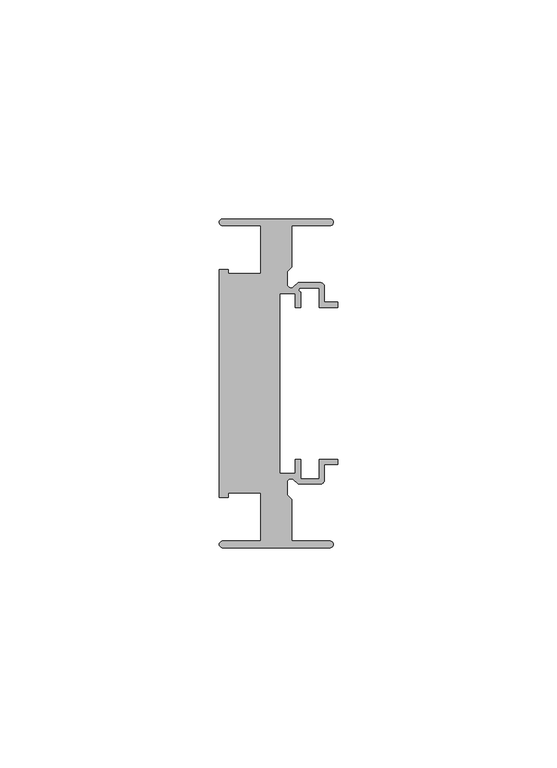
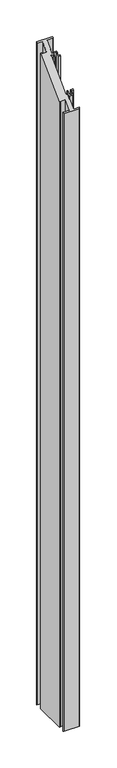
"""IFC4 building model written with IfcOpenShell, lengths in millimetres: member geometry, Прямоугольный импост : 7-AMG-2-Профиль 26Х75 Низ Л."""

from ifc_helpers import new_model, si_unit, frame, origin, place, context, project, spatial, polyline, circle_curve, ellipse_curve, source, transform, mapped, element, save
from ifc_brep_helpers import plane_surface, cylinder_surface, revolved_surface, advanced_brep


def member_af907c4f(model_context):
    return source(origin(), model_context, "Body", "AdvancedBrep", [
        advanced_brep(
        [(-1.7, -37.5, -1073.0), (-26.25, -37.5, -1073.0), (-26.25, -36.0, -1073.0), (-17.5, -36.0, -1073.0), (-17.5, -25.0, -1073.0), (-24.9359877, -25.0, -1073.0), (-24.9359877, -26.0, -1073.0), (-27.0, -26.0, -1073.0), (-27.0, 26.0, -1073.0), (-24.9359877, 26.0, -1073.0), (-24.9359877, 25.0, -1073.0), (-17.5, 25.0, -1073.0), (-17.5, 36.0, -1073.0), (-26.25, 36.0, -1073.0), (-26.25, 37.5, -1073.0), (-1.7, 37.5, -1073.0), (-1.7, 36.0, -1073.0), (-10.5, 36.0, -1073.0), (-10.5, 26.5029437, -1073.0), (-11.5, 25.5029437, -1073.0), (-11.5, 22.6727922, -1073.0), (-9.9636039, 22.0363961, -1073.0), (-9.0, 23.0, -1073.0), (-4.0, 23.0, -1073.0), (-3.0, 22.0, -1073.0), (-3.0, 18.55, -1073.0), (0.0, 18.55, -1073.0), (0.0, 17.35, -1073.0), (-4.2, 17.35, -1073.0), (-4.2, 21.8, -1073.0), (-8.5029437, 21.8, -1073.0), (-8.45, 20.8470563, -1073.0), (-8.45, 17.35, -1073.0), (-9.65, 17.35, -1073.0), (-9.65, 20.55, -1073.0), (-13.15, 20.55, -1073.0), (-13.15, -20.55, -1073.0), (-9.65, -20.55, -1073.0), (-9.65, -17.35, -1073.0), (-8.45, -17.35, -1073.0), (-8.45, -21.8, -1073.0), (-4.2, -21.8, -1073.0), (-4.2, -17.35, -1073.0), (0.0, -17.35, -1073.0), (0.0, -18.55, -1073.0), (-3.0, -18.55, -1073.0), (-3.0, -22.0, -1073.0), (-4.0, -23.0, -1073.0), (-9.0, -23.0, -1073.0), (-9.9636039, -22.0363961, -1073.0), (-11.5, -22.6727922, -1073.0), (-11.5, -25.5029437, -1073.0), (-10.5, -26.5029437, -1073.0), (-10.5, -36.0, -1073.0), (-1.7, -36.0, -1073.0), (-1.7, -36.0, -36.0), (-1.7, -37.5, -37.5), (-10.5, -36.0, -36.0), (-10.5, -26.5029437, -26.5029437), (-11.5, -25.5029437, -25.5029437), (-11.5, -22.6727922, -22.6727922), (-9.9636039, -22.0363961, -22.0363961), (-9.0, -23.0, -23.0), (-4.0, -23.0, -23.0), (-3.0, -22.0, -22.0), (-3.0, -18.55, -18.55), (0.0, -18.55, -18.55), (0.0, -17.35, -17.35), (-4.2, -17.35, -17.35), (-4.2, -21.8, -21.8), (-8.45, -21.8, -21.8), (-8.45, -17.35, -17.35), (-9.65, -17.35, -17.35), (-9.65, -20.55, -20.55), (-13.15, -20.55, -20.55), (-13.15, 20.55, 20.55), (-9.65, 20.55, 20.55), (-9.65, 17.35, 17.35), (-8.45, 17.35, 17.35), (-8.45, 20.8470563, 20.8470563), (-8.5029437, 21.8, 21.8), (-4.2, 21.8, 21.8), (-4.2, 17.35, 17.35), (0.0, 17.35, 17.35), (0.0, 18.55, 18.55), (-3.0, 18.55, 18.55), (-3.0, 22.0, 22.0), (-4.0, 23.0, 23.0), (-9.0, 23.0, 23.0), (-9.9636039, 22.0363961, 22.0363961), (-11.5, 22.6727922, 22.6727922), (-11.5, 25.5029437, 25.5029437), (-10.5, 26.5029437, 26.5029437), (-10.5, 36.0, 36.0), (-1.7, 36.0, 36.0), (-1.7, 37.5, 37.5), (-26.25, 37.5, 37.5), (-26.25, 36.0, 36.0), (-17.5, 36.0, 36.0), (-17.5, 25.0, 25.0), (-24.9359877, 25.0, 25.0), (-24.9359877, 26.0, 26.0), (-27.0, 26.0, 26.0), (-27.0, -26.0, -26.0), (-24.9359877, -26.0, -26.0), (-24.9359877, -25.0, -25.0), (-17.5, -25.0, -25.0), (-17.5, -36.0, -36.0), (-26.25, -36.0, -36.0), (-26.25, -37.5, -37.5)],
        [
            (0, 1),
            (1, 2, circle_curve(frame((-26.25, -36.75, -1073.0), z_axis=(0.0, 0.0, -1.0), x_axis=(-1.0, 0.0, 0.0)), 0.75)),
            (2, 3),
            (3, 4),
            (4, 5),
            (5, 6),
            (6, 7),
            (7, 8),
            (8, 9),
            (9, 10),
            (10, 11),
            (11, 12),
            (12, 13),
            (13, 14, circle_curve(frame((-26.25, 36.75, -1073.0), z_axis=(0.0, 0.0, -1.0), x_axis=(-1.0, 0.0, 0.0)), 0.75)),
            (14, 15),
            (15, 16, circle_curve(frame((-1.7, 36.75, -1073.0), z_axis=(0.0, 0.0, -1.0), x_axis=(-1.0, 0.0, 0.0)), 0.75)),
            (16, 17),
            (17, 18),
            (18, 19),
            (19, 20),
            (20, 21, circle_curve(frame((-10.6, 22.6727922, -1073.0), z_axis=(0.0, 0.0, 1.0), x_axis=(1.0, 0.0, 0.0)), 0.9)),
            (21, 22),
            (22, 23),
            (23, 24, circle_curve(frame((-4.0, 22.0, -1073.0), z_axis=(0.0, 0.0, -1.0), x_axis=(1.0, 0.0, 0.0)), 1.0)),
            (24, 25),
            (25, 26),
            (26, 27),
            (27, 28),
            (28, 29),
            (29, 30),
            (30, 31, circle_curve(frame((-8.3343131, 21.3314262, -1073.0), z_axis=(0.0, 0.0, 1.0), x_axis=(1.0, 0.0, 0.0)), 0.4979937)),
            (31, 32),
            (32, 33),
            (33, 34),
            (34, 35),
            (35, 36),
            (36, 37),
            (37, 38),
            (38, 39),
            (39, 40),
            (40, 41),
            (41, 42),
            (42, 43),
            (43, 44),
            (44, 45),
            (45, 46),
            (46, 47, circle_curve(frame((-4.0, -22.0, -1073.0), z_axis=(0.0, 0.0, -1.0), x_axis=(1.0, 0.0, 0.0)), 1.0)),
            (47, 48),
            (48, 49),
            (49, 50, circle_curve(frame((-10.6, -22.6727922, -1073.0), z_axis=(0.0, 0.0, 1.0), x_axis=(1.0, 0.0, 0.0)), 0.9)),
            (50, 51),
            (51, 52),
            (52, 53),
            (53, 54),
            (54, 0, circle_curve(frame((-1.7, -36.75, -1073.0), z_axis=(0.0, 0.0, -1.0), x_axis=(-1.0, 0.0, 0.0)), 0.75)),
            (55, 56, ellipse_curve(frame((-1.7, -36.75, -36.75), z_axis=(0.0, 0.7071067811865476, -0.7071067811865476), x_axis=(0.0, 0.7071067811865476, 0.7071067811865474)), 1.0606602, 0.75)),
            (56, 0),
            (54, 55),
            (57, 55),
            (53, 57),
            (58, 57),
            (52, 58),
            (59, 58),
            (51, 59),
            (60, 59),
            (50, 60),
            (61, 60, ellipse_curve(frame((-10.6, -22.6727922, -22.6727922), z_axis=(0.0, -0.7071067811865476, 0.7071067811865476), x_axis=(0.0, -0.7071067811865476, -0.7071067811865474)), 1.2727922, 0.9)),
            (49, 61),
            (62, 61),
            (48, 62),
            (63, 62),
            (47, 63),
            (64, 63, ellipse_curve(frame((-4.0, -22.0, -22.0), z_axis=(0.0, 0.7071067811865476, -0.7071067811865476), x_axis=(0.0, 0.7071067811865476, 0.7071067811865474)), 1.4142136, 1.0)),
            (46, 64),
            (65, 64),
            (45, 65),
            (66, 65),
            (44, 66),
            (67, 66),
            (43, 67),
            (68, 67),
            (42, 68),
            (69, 68),
            (41, 69),
            (70, 69),
            (40, 70),
            (71, 70),
            (39, 71),
            (72, 71),
            (38, 72),
            (73, 72),
            (37, 73),
            (74, 73),
            (36, 74),
            (75, 74),
            (35, 75),
            (76, 75),
            (34, 76),
            (77, 76),
            (33, 77),
            (78, 77),
            (32, 78),
            (79, 78),
            (31, 79),
            (80, 79, ellipse_curve(frame((-8.3343131, 21.3314262, 21.3314262), z_axis=(0.0, -0.7071067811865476, 0.7071067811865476), x_axis=(0.0, -0.7071067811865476, -0.7071067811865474)), 0.7042694, 0.4979937)),
            (30, 80),
            (81, 80),
            (29, 81),
            (82, 81),
            (28, 82),
            (83, 82),
            (27, 83),
            (84, 83),
            (26, 84),
            (85, 84),
            (25, 85),
            (86, 85),
            (24, 86),
            (87, 86, ellipse_curve(frame((-4.0, 22.0, 22.0), z_axis=(0.0, 0.7071067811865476, -0.7071067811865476), x_axis=(0.0, 0.7071067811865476, 0.7071067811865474)), 1.4142136, 1.0)),
            (23, 87),
            (88, 87),
            (22, 88),
            (89, 88),
            (21, 89),
            (90, 89, ellipse_curve(frame((-10.6, 22.6727922, 22.6727922), z_axis=(0.0, -0.7071067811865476, 0.7071067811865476), x_axis=(0.0, -0.7071067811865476, -0.7071067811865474)), 1.2727922, 0.9)),
            (20, 90),
            (91, 90),
            (19, 91),
            (92, 91),
            (18, 92),
            (93, 92),
            (17, 93),
            (94, 93),
            (16, 94),
            (95, 94, ellipse_curve(frame((-1.7, 36.75, 36.75), z_axis=(0.0, 0.7071067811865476, -0.7071067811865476), x_axis=(0.0, 0.7071067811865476, 0.7071067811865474)), 1.0606602, 0.75)),
            (15, 95),
            (96, 95),
            (14, 96),
            (97, 96, ellipse_curve(frame((-26.25, 36.75, 36.75), z_axis=(0.0, 0.7071067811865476, -0.7071067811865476), x_axis=(0.0, 0.7071067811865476, 0.7071067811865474)), 1.0606602, 0.75)),
            (13, 97),
            (98, 97),
            (12, 98),
            (99, 98),
            (11, 99),
            (100, 99),
            (10, 100),
            (101, 100),
            (9, 101),
            (102, 101),
            (8, 102),
            (103, 102),
            (7, 103),
            (104, 103),
            (6, 104),
            (105, 104),
            (5, 105),
            (106, 105),
            (4, 106),
            (107, 106),
            (3, 107),
            (108, 107),
            (2, 108),
            (109, 108, ellipse_curve(frame((-26.25, -36.75, -36.75), z_axis=(0.0, 0.7071067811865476, -0.7071067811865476), x_axis=(0.0, 0.7071067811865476, 0.7071067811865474)), 1.0606602, 0.75)),
            (1, 109),
            (56, 109),
        ],
        [
            plane_surface(frame((0.0, -45.7745836, -1073.0), z_axis=(0.0, 0.0, -1.0), x_axis=(-1.0, 0.0, 0.0))),
            cylinder_surface(frame((-1.7, -36.75, 0.0), z_axis=(0.0, 0.0, 1.0), x_axis=(-1.0, 0.0, 0.0)), 0.75),
            plane_surface(frame((-1.7, -36.0, 0.0), z_axis=(0.0, 1.0, 0.0), x_axis=(0.0, 0.0, -1.0))),
            plane_surface(frame((-10.5, -36.0, 0.0), z_axis=(1.0, 0.0, 0.0), x_axis=(0.0, 0.0, -1.0))),
            plane_surface(frame((-10.5, -26.5029437, 0.0), z_axis=(0.7071067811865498, 0.7071067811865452, 0.0), x_axis=(0.0, 0.0, -1.0))),
            plane_surface(frame((-11.5, -25.5029437, 0.0), z_axis=(1.0, 0.0, 0.0), x_axis=(0.0, 0.0, -1.0))),
            revolved_surface(polyline([(-9.7, -22.6727922, -1073.0), (-9.7, -22.6727922, -21.772792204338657)]), (-10.6, -22.6727922, 0.0), (0.0, 0.0, -1.0)),
            plane_surface(frame((-9.9636039, -22.0363961, 0.0), z_axis=(-0.7071067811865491, -0.707106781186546, 0.0), x_axis=(0.0, 0.0, -1.0))),
            plane_surface(frame((-9.0, -23.0, 0.0), z_axis=(0.0, -1.0, 0.0), x_axis=(0.0, 0.0, -1.0))),
            cylinder_surface(frame((-4.0, -22.0, 0.0), z_axis=(0.0, 0.0, 1.0), x_axis=(1.0, 0.0, 0.0)), 1.0),
            plane_surface(frame((-3.0, -22.0, 0.0), z_axis=(1.0, 0.0, 0.0), x_axis=(0.0, 0.0, -1.0))),
            plane_surface(frame((-3.0, -18.55, 0.0), z_axis=(0.0, -1.0, 0.0), x_axis=(0.0, 0.0, -1.0))),
            plane_surface(frame((0.0, -18.55, 0.0), z_axis=(1.0, 0.0, 0.0), x_axis=(0.0, 0.0, -1.0))),
            plane_surface(frame((0.0, -17.35, 0.0), z_axis=(0.0, 1.0, 0.0), x_axis=(0.0, 0.0, -1.0))),
            plane_surface(frame((-4.2, -17.35, 0.0), z_axis=(-1.0, 0.0, 0.0), x_axis=(0.0, 0.0, -1.0))),
            plane_surface(frame((-4.2, -21.8, 0.0), z_axis=(0.0, 1.0, 0.0), x_axis=(0.0, 0.0, -1.0))),
            plane_surface(frame((-8.45, -21.8, 0.0), z_axis=(1.0, 0.0, 0.0), x_axis=(0.0, 0.0, -1.0))),
            plane_surface(frame((-8.45, -17.35, 0.0), z_axis=(0.0, 1.0, 0.0), x_axis=(0.0, 0.0, -1.0))),
            plane_surface(frame((-9.65, -17.35, 0.0), z_axis=(-1.0, 0.0, 0.0), x_axis=(0.0, 0.0, -1.0))),
            plane_surface(frame((-9.65, -20.55, 0.0), z_axis=(0.0, 1.0, 0.0), x_axis=(0.0, 0.0, -1.0))),
            plane_surface(frame((-13.15, -20.55, 0.0), z_axis=(1.0, 0.0, 0.0), x_axis=(0.0, 0.0, -1.0))),
            plane_surface(frame((-13.15, 20.55, 0.0), z_axis=(0.0, -1.0, 0.0), x_axis=(0.0, 0.0, -1.0))),
            plane_surface(frame((-9.65, 20.55, 0.0), z_axis=(-1.0, 0.0, 0.0), x_axis=(0.0, 0.0, -1.0))),
            plane_surface(frame((-9.65, 17.35, 0.0), z_axis=(0.0, -1.0, 0.0), x_axis=(0.0, 0.0, -1.0))),
            plane_surface(frame((-8.45, 17.35, 0.0), z_axis=(1.0, 0.0, 0.0), x_axis=(0.0, 0.0, -1.0))),
            revolved_surface(polyline([(-7.836319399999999, 21.3314262, -1073.0), (-7.836319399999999, 21.3314262, 21.82941986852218)]), (-8.3343131, 21.3314262, 0.0), (0.0, 0.0, -1.0)),
            plane_surface(frame((-8.5029437, 21.8, 0.0), z_axis=(0.0, -1.0, 0.0), x_axis=(0.0, 0.0, -1.0))),
            plane_surface(frame((-4.2, 21.8, 0.0), z_axis=(-1.0, 0.0, 0.0), x_axis=(0.0, 0.0, -1.0))),
            plane_surface(frame((-4.2, 17.35, 0.0), z_axis=(0.0, -1.0, 0.0), x_axis=(0.0, 0.0, -1.0))),
            plane_surface(frame((0.0, 17.35, 0.0), z_axis=(1.0, 0.0, 0.0), x_axis=(0.0, 0.0, -1.0))),
            plane_surface(frame((0.0, 18.55, 0.0), z_axis=(0.0, 1.0, 0.0), x_axis=(0.0, 0.0, -1.0))),
            plane_surface(frame((-3.0, 18.55, 0.0), z_axis=(1.0, 0.0, 0.0), x_axis=(0.0, 0.0, -1.0))),
            cylinder_surface(frame((-4.0, 22.0, 0.0), z_axis=(0.0, 0.0, 1.0), x_axis=(1.0, 0.0, 0.0)), 1.0),
            plane_surface(frame((-4.0, 23.0, 0.0), z_axis=(0.0, 1.0, 0.0), x_axis=(0.0, 0.0, -1.0))),
            plane_surface(frame((-9.0, 23.0, 0.0), z_axis=(-0.7071067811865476, 0.7071067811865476, 0.0), x_axis=(0.0, 0.0, -1.0))),
            revolved_surface(polyline([(-9.7, 22.6727922, -1073.0), (-9.7, 22.6727922, 23.572792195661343)]), (-10.6, 22.6727922, 0.0), (0.0, 0.0, -1.0)),
            plane_surface(frame((-11.5, 22.6727922, 0.0), z_axis=(1.0, 0.0, 0.0), x_axis=(0.0, 0.0, -1.0))),
            plane_surface(frame((-11.5, 25.5029437, 0.0), z_axis=(0.7071067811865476, -0.7071067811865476, 0.0), x_axis=(0.0, 0.0, -1.0))),
            plane_surface(frame((-10.5, 26.5029437, 0.0), z_axis=(1.0, 0.0, 0.0), x_axis=(0.0, 0.0, -1.0))),
            plane_surface(frame((-10.5, 36.0, 0.0), z_axis=(0.0, -1.0, 0.0), x_axis=(0.0, 0.0, -1.0))),
            cylinder_surface(frame((-1.7, 36.75, 0.0), z_axis=(0.0, 0.0, 1.0), x_axis=(-1.0, 0.0, 0.0)), 0.75),
            plane_surface(frame((-1.7, 37.5, 0.0), z_axis=(0.0, 1.0, 0.0), x_axis=(0.0, 0.0, -1.0))),
            cylinder_surface(frame((-26.25, 36.75, 0.0), z_axis=(0.0, 0.0, 1.0), x_axis=(-1.0, 0.0, 0.0)), 0.75),
            plane_surface(frame((-26.25, 36.0, 0.0), z_axis=(0.0, -1.0, 0.0), x_axis=(0.0, 0.0, -1.0))),
            plane_surface(frame((-17.5, 36.0, 0.0), z_axis=(-1.0, 0.0, 0.0), x_axis=(0.0, 0.0, -1.0))),
            plane_surface(frame((-17.5, 25.0, 0.0), z_axis=(0.0, 1.0, 0.0), x_axis=(0.0, 0.0, -1.0))),
            plane_surface(frame((-24.9359877, 25.0, 0.0), z_axis=(1.0, 0.0, 0.0), x_axis=(0.0, 0.0, -1.0))),
            plane_surface(frame((-24.9359877, 26.0, 0.0), z_axis=(0.0, 1.0, 0.0), x_axis=(0.0, 0.0, -1.0))),
            plane_surface(frame((-27.0, 26.0, 0.0), z_axis=(-1.0, 0.0, 0.0), x_axis=(0.0, 0.0, -1.0))),
            plane_surface(frame((-27.0, -26.0, 0.0), z_axis=(0.0, -1.0, 0.0), x_axis=(0.0, 0.0, -1.0))),
            plane_surface(frame((-24.9359877, -26.0, 0.0), z_axis=(1.0, 0.0, 0.0), x_axis=(0.0, 0.0, -1.0))),
            plane_surface(frame((-24.9359877, -25.0, 0.0), z_axis=(0.0, -1.0, 0.0), x_axis=(0.0, 0.0, -1.0))),
            plane_surface(frame((-17.5, -25.0, 0.0), z_axis=(-1.0, 0.0, 0.0), x_axis=(0.0, 0.0, -1.0))),
            plane_surface(frame((-17.5, -36.0, 0.0), z_axis=(0.0, 1.0, 0.0), x_axis=(0.0, 0.0, -1.0))),
            cylinder_surface(frame((-26.25, -36.75, 0.0), z_axis=(0.0, 0.0, 1.0), x_axis=(-1.0, 0.0, 0.0)), 0.75),
            plane_surface(frame((-26.25, -37.5, 0.0), z_axis=(0.0, -1.0, 0.0), x_axis=(0.0, 0.0, -1.0))),
            plane_surface(frame((304.8, 0.0, 0.0), z_axis=(0.0, -0.7071067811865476, 0.7071067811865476), x_axis=(0.0, -0.7071067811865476, -0.7071067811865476))),
        ],
        [
            (0, [[1, 2, 3, 4, 5, 6, 7, 8, 9, 10, 11, 12, 13, 14, 15, 16, 17, 18, 19, 20, 21, 22, 23, 24, 25, 26, 27, 28, 29, 30, 31, 32, 33, 34, 35, 36, 37, 38, 39, 40, 41, 42, 43, 44, 45, 46, 47, 48, 49, 50, 51, 52, 53, 54, 55]]),
            (1, [[56, 57, -55, 58]]),
            (2, [[59, -58, -54, 60]]),
            (3, [[61, -60, -53, 62]]),
            (4, [[63, -62, -52, 64]]),
            (5, [[65, -64, -51, 66]]),
            (6, [[67, -66, -50, 68]]),
            (7, [[69, -68, -49, 70]]),
            (8, [[71, -70, -48, 72]]),
            (9, [[73, -72, -47, 74]]),
            (10, [[75, -74, -46, 76]]),
            (11, [[77, -76, -45, 78]]),
            (12, [[79, -78, -44, 80]]),
            (13, [[81, -80, -43, 82]]),
            (14, [[83, -82, -42, 84]]),
            (15, [[85, -84, -41, 86]]),
            (16, [[87, -86, -40, 88]]),
            (17, [[89, -88, -39, 90]]),
            (18, [[91, -90, -38, 92]]),
            (19, [[93, -92, -37, 94]]),
            (20, [[95, -94, -36, 96]]),
            (21, [[97, -96, -35, 98]]),
            (22, [[99, -98, -34, 100]]),
            (23, [[101, -100, -33, 102]]),
            (24, [[103, -102, -32, 104]]),
            (25, [[105, -104, -31, 106]]),
            (26, [[107, -106, -30, 108]]),
            (27, [[109, -108, -29, 110]]),
            (28, [[111, -110, -28, 112]]),
            (29, [[113, -112, -27, 114]]),
            (30, [[115, -114, -26, 116]]),
            (31, [[117, -116, -25, 118]]),
            (32, [[119, -118, -24, 120]]),
            (33, [[121, -120, -23, 122]]),
            (34, [[123, -122, -22, 124]]),
            (35, [[125, -124, -21, 126]]),
            (36, [[127, -126, -20, 128]]),
            (37, [[129, -128, -19, 130]]),
            (38, [[131, -130, -18, 132]]),
            (39, [[133, -132, -17, 134]]),
            (40, [[135, -134, -16, 136]]),
            (41, [[137, -136, -15, 138]]),
            (42, [[139, -138, -14, 140]]),
            (43, [[141, -140, -13, 142]]),
            (44, [[143, -142, -12, 144]]),
            (45, [[145, -144, -11, 146]]),
            (46, [[147, -146, -10, 148]]),
            (47, [[149, -148, -9, 150]]),
            (48, [[151, -150, -8, 152]]),
            (49, [[153, -152, -7, 154]]),
            (50, [[155, -154, -6, 156]]),
            (51, [[157, -156, -5, 158]]),
            (52, [[159, -158, -4, 160]]),
            (53, [[161, -160, -3, 162]]),
            (54, [[163, -162, -2, 164]]),
            (55, [[165, -164, -1, -57]]),
            (56, [[-56, -59, -61, -63, -65, -67, -69, -71, -73, -75, -77, -79, -81, -83, -85, -87, -89, -91, -93, -95, -97, -99, -101, -103, -105, -107, -109, -111, -113, -115, -117, -119, -121, -123, -125, -127, -129, -131, -133, -135, -137, -139, -141, -143, -145, -147, -149, -151, -153, -155, -157, -159, -161, -163, -165]]),
        ],
    ),
    ])


if __name__ == "__main__":
    model = new_model("IFC4")
    model_context = context("Model", 3, world=origin())
    ifc_project = project(units=[si_unit("LENGTHUNIT", "METRE", prefix="MILLI")], contexts=[model_context])
    site = spatial("IfcSite", under=ifc_project)
    building = spatial("IfcBuilding", under=site)
    placement = place(None, origin())
    member_shape = member_af907c4f(model_context)
    element("IfcMember", 1, ObjectType="Прямоугольный импост : 7-AMG-2-Профиль 26Х75 Низ Л", at=placement, inside=building, context=model_context, shape_type="MappedRepresentation", body=[
        mapped(member_shape, transform((0.0, 0.0, 0.0), x_axis=(1.0, 0.0, 0.0), y_axis=(0.0, 1.0, 0.0), z_axis=(0.0, 0.0, 1.0))),
    ])
    save(model, "model.ifc")
